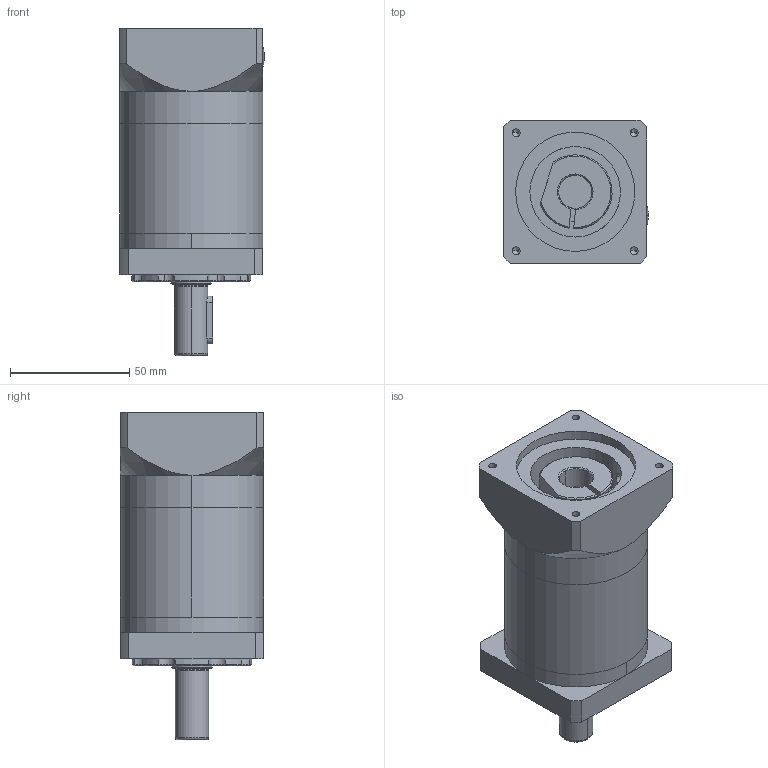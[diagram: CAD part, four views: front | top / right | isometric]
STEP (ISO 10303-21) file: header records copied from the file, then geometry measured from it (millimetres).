
FILE_DESCRIPTION (( 'STEP AP203' ), '1' );
FILE_NAME ('LSF60-(L2)-S2-P2-5070M4.STEP', '2024-11-14T06:07:30', ( '微软用户' ), ( '微软中国' ), 'SwSTEP 2.0', 'SolidWorks 2022', '' );
FILE_SCHEMA (( 'CONFIG_CONTROL_DESIGN' ));
Length unit declared in the file: millimetre
Products named in the file (1): LSF60-(L2)-S2-P2-5070M4
Bounding box: 60.7 x 60 x 137.5 mm (x, y, z)
Volume: 301963.2 mm3; surface area: 53898.3 mm2
Topology: 6 solids, 6 shells, 433 faces, 986 edges, 580 vertices
Faces by surface type: plane 165, cylinder 127, cone 117, torus 24
Entity records: 12588 total; most frequent: CARTESIAN_POINT 2770, DIRECTION 2190, ORIENTED_EDGE 1916, EDGE_CURVE 958, AXIS2_PLACEMENT_3D 899, VERTEX_POINT 580, EDGE_LOOP 484, CIRCLE 465
